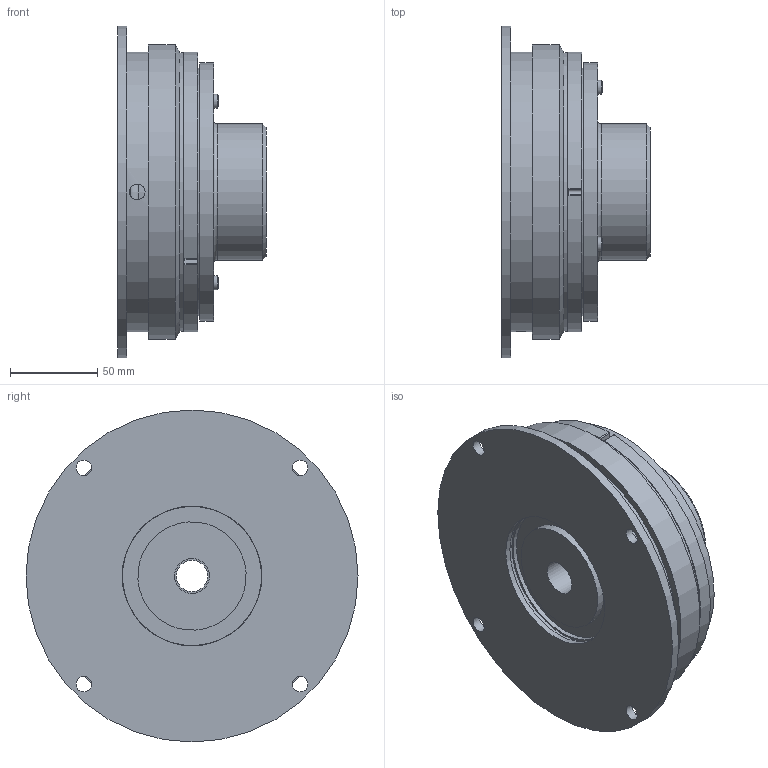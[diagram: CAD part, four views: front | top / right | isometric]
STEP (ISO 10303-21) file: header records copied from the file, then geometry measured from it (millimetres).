
FILE_DESCRIPTION(/* description */ (''),/* implementation_level */ '2;1');
FILE_NAME(/* name */ 'X:\INVENTOR\DISEGNI\08_Freni_Friz_Elettmag_Monodisco\08_20 ESAL\08_20_160_02 ESAL160_ME\08_20_160_02 ESAL160_ME@STEP.stp',/* time_stamp */ '2023-02-16T10:24:42+01:00',/* author */ ('alessio'),/* organization */ (''),/* preprocessor_version */ 'ST-DEVELOPER v18.1',/* originating_system */ 'Autodesk Inventor 2021',/* authorisation */ '');
FILE_SCHEMA (('AUTOMOTIVE_DESIGN { 1 0 10303 214 3 1 1 }'));
Length unit declared in the file: millimetre
Products named in the file (1): 08_20_160_02 ESAL160_ME
Bounding box: 84.7 x 190 x 190 mm (x, y, z)
Volume: 960881.3 mm3; surface area: 209224.1 mm2
Topology: 2 solids, 11 shells, 296 faces, 652 edges, 412 vertices
Faces by surface type: plane 112, cylinder 110, torus 59, cone 15
Full cylindrical faces by diameter (mm): 3 x3, 8 x9, 8.1 x3, 8.2 x6, 9 x5, 12 x3, 14 x3, 18 x1, 20 x1, 21 x6, 62 x1, 70 x1, 78 x1, 79.5 x1, 80 x3, 82.1 x1, 94 x1, 98 x1, 99 x2, 142 x1, 148 x1, 149 x2, 152 x1, 160 x2, 160.5 x1, 169 x1, 190 x1
Entity records: 8599 total; most frequent: DIRECTION 1601, CARTESIAN_POINT 1483, ORIENTED_EDGE 1298, AXIS2_PLACEMENT_3D 683, EDGE_CURVE 649, VERTEX_POINT 412, CIRCLE 386, EDGE_LOOP 359
